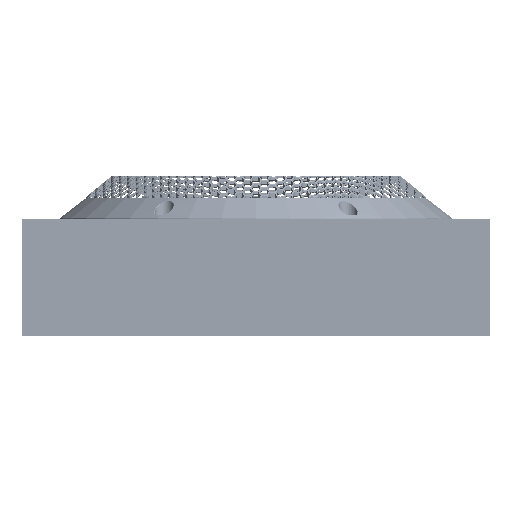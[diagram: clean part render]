
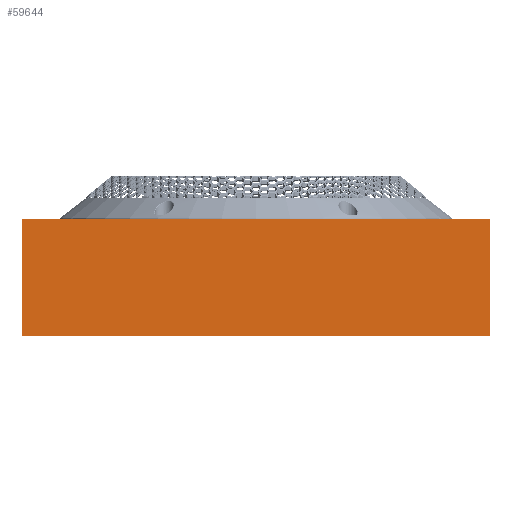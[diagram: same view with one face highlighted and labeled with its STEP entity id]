
A CAD part, top view. The second image highlights one B-rep face of the part: STEP entity #59644.
In plain terms, the highlighted planar face has unit normal (0, 0, 1).
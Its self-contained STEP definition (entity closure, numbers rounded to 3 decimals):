
#793 = DIRECTION ( 'NONE',  ( 1., 0., 0. ) ) ;
#24127 = DIRECTION ( 'NONE',  ( 0., 0., 1. ) ) ;
#37140 = EDGE_CURVE ( 'NONE', #172582, #170980, #41329, .T. ) ;
#39271 = ORIENTED_EDGE ( 'NONE', *, *, #232564, .F. ) ;
#41329 = LINE ( 'NONE', #128290, #160684 ) ;
#53361 = CARTESIAN_POINT ( 'NONE',  ( 100., -50., 100. ) ) ;
#59644 = ADVANCED_FACE ( 'NONE', ( #114536 ), #305308, .T. ) ;
#82469 = VECTOR ( 'NONE', #227944, 1000. ) ;
#105989 = DIRECTION ( 'NONE',  ( 1., 0., 0. ) ) ;
#108979 = EDGE_CURVE ( 'NONE', #170980, #123856, #150164, .T. ) ;
#114536 = FACE_OUTER_BOUND ( 'NONE', #158519, .T. ) ;
#123856 = VERTEX_POINT ( 'NONE', #162384 ) ;
#126057 = DIRECTION ( 'NONE',  ( 1., 0., 0. ) ) ;
#128290 = CARTESIAN_POINT ( 'NONE',  ( -100., -50., 100. ) ) ;
#138821 = ORIENTED_EDGE ( 'NONE', *, *, #37140, .T. ) ;
#141591 = VERTEX_POINT ( 'NONE', #160166 ) ;
#150164 = LINE ( 'NONE', #174557, #82469 ) ;
#158519 = EDGE_LOOP ( 'NONE', ( #219320, #39271, #138821, #217211 ) ) ;
#160166 = CARTESIAN_POINT ( 'NONE',  ( -100., 0., 100. ) ) ;
#160684 = VECTOR ( 'NONE', #105989, 1000. ) ;
#162384 = CARTESIAN_POINT ( 'NONE',  ( 100., 0., 100. ) ) ;
#170980 = VERTEX_POINT ( 'NONE', #53361 ) ;
#172582 = VERTEX_POINT ( 'NONE', #181818 ) ;
#174557 = CARTESIAN_POINT ( 'NONE',  ( 100., -50., 100. ) ) ;
#178049 = VECTOR ( 'NONE', #126057, 1000. ) ;
#181818 = CARTESIAN_POINT ( 'NONE',  ( -100., -50., 100. ) ) ;
#189941 = AXIS2_PLACEMENT_3D ( 'NONE', #253023, #24127, #793 ) ;
#201704 = CARTESIAN_POINT ( 'NONE',  ( -100., 0., 100. ) ) ;
#217211 = ORIENTED_EDGE ( 'NONE', *, *, #108979, .T. ) ;
#219320 = ORIENTED_EDGE ( 'NONE', *, *, #270973, .F. ) ;
#227944 = DIRECTION ( 'NONE',  ( 0., 1., 0. ) ) ;
#230987 = VECTOR ( 'NONE', #266642, 1000. ) ;
#232564 = EDGE_CURVE ( 'NONE', #172582, #141591, #298629, .T. ) ;
#253023 = CARTESIAN_POINT ( 'NONE',  ( -100., -50., 100. ) ) ;
#265376 = LINE ( 'NONE', #201704, #178049 ) ;
#266642 = DIRECTION ( 'NONE',  ( 0., 1., 0. ) ) ;
#270973 = EDGE_CURVE ( 'NONE', #141591, #123856, #265376, .T. ) ;
#298629 = LINE ( 'NONE', #313477, #230987 ) ;
#305308 = PLANE ( 'NONE',  #189941 ) ;
#313477 = CARTESIAN_POINT ( 'NONE',  ( -100., -50., 100. ) ) ;
